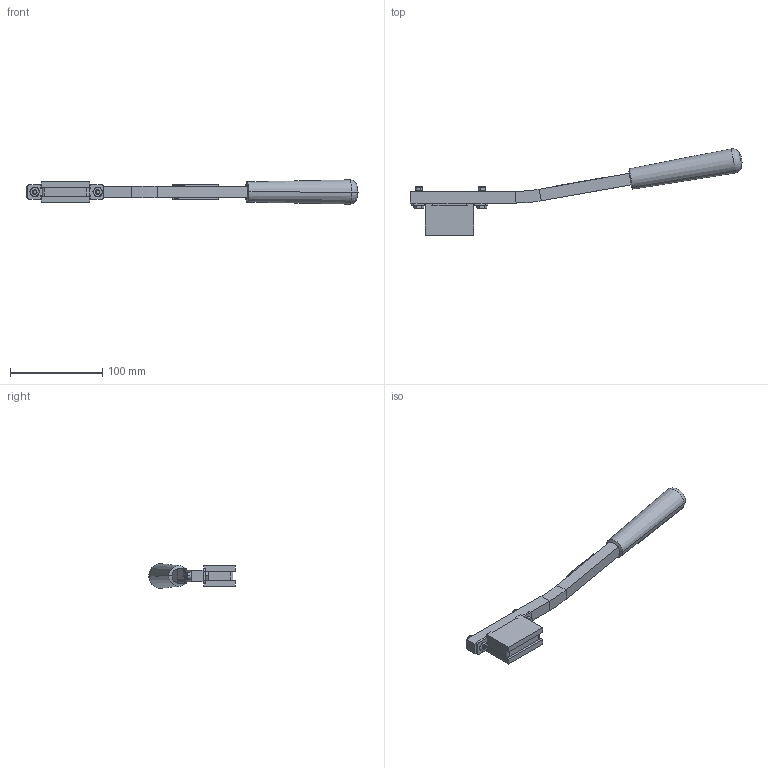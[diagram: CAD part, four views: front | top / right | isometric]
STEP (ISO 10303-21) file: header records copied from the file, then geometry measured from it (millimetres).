
FILE_DESCRIPTION (( 'STEP AP203' ), '1' );
FILE_NAME ('IMPL3040.STEP', '2018-08-14T15:47:18', ( '' ), ( '' ), 'SwSTEP 2.0', 'SolidWorks 2015', '' );
FILE_SCHEMA (( 'CONFIG_CONTROL_DESIGN' ));
Length unit declared in the file: inch
Products named in the file (1): IMPL3040
Bounding box: 359.8 x 93.78 x 26.49 mm (x, y, z)
Volume: 126273.9 mm3; surface area: 56185.4 mm2
Topology: 12 solids, 12 shells, 946 faces, 2257 edges, 1399 vertices
Faces by surface type: plane 441, cone 186, bspline 161, cylinder 140, torus 14, sphere 4
Entity records: 36918 total; most frequent: CARTESIAN_POINT 15852, ORIENTED_EDGE 4514, DIRECTION 3893, EDGE_CURVE 2257, LINE 1501, VECTOR 1501, VERTEX_POINT 1399, AXIS2_PLACEMENT_3D 1196
